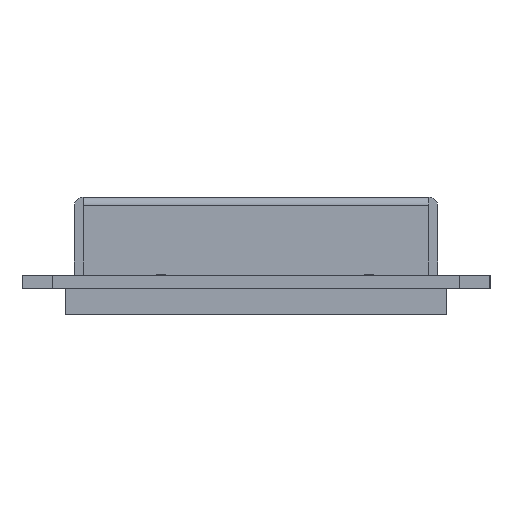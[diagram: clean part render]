
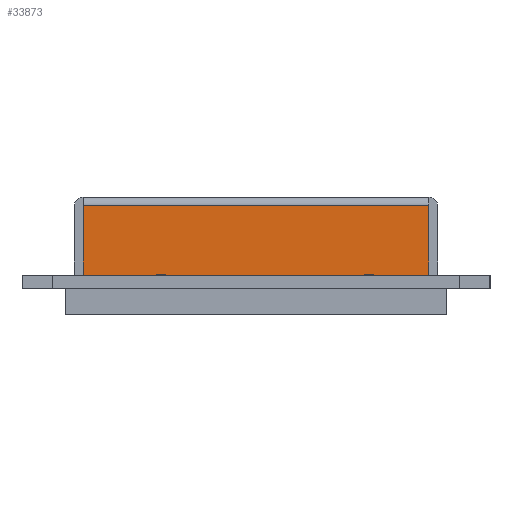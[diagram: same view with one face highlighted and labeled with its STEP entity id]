
A CAD part, left-side view. The second image highlights one B-rep face of the part: STEP entity #33873.
In plain terms, the highlighted planar face has unit normal (-1, 0, 0).
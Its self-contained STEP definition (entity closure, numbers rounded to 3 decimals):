
#1769 = EDGE_LOOP ( 'NONE', ( #32699, #21112, #14857, #35294 ) ) ;
#4087 = EDGE_CURVE ( 'NONE', #55263, #40249, #17164, .T. ) ;
#4167 = LINE ( 'NONE', #35511, #15097 ) ;
#5903 = EDGE_CURVE ( 'NONE', #40249, #44597, #4167, .T. ) ;
#7395 = PLANE ( 'NONE',  #45710 ) ;
#8033 = EDGE_CURVE ( 'NONE', #44597, #19245, #34786, .T. ) ;
#8549 = CARTESIAN_POINT ( 'NONE',  ( 11.85, -46.95, 9.6 ) ) ;
#8587 = DIRECTION ( 'NONE',  ( 0., 0., 1. ) ) ;
#9038 = VECTOR ( 'NONE', #38651, 1000. ) ;
#12665 = EDGE_CURVE ( 'NONE', #55263, #19245, #28182, .T. ) ;
#12729 = DIRECTION ( 'NONE',  ( 1., 0., 0. ) ) ;
#14857 = ORIENTED_EDGE ( 'NONE', *, *, #12665, .F. ) ;
#15097 = VECTOR ( 'NONE', #8587, 1000. ) ;
#17164 = LINE ( 'NONE', #36049, #31664 ) ;
#19245 = VERTEX_POINT ( 'NONE', #54883 ) ;
#20735 = DIRECTION ( 'NONE',  ( 0., 1., 0. ) ) ;
#21112 = ORIENTED_EDGE ( 'NONE', *, *, #8033, .T. ) ;
#23470 = DIRECTION ( 'NONE',  ( 0., 0., 1. ) ) ;
#28182 = LINE ( 'NONE', #33512, #47278 ) ;
#31664 = VECTOR ( 'NONE', #57931, 1000. ) ;
#32699 = ORIENTED_EDGE ( 'NONE', *, *, #5903, .T. ) ;
#33512 = CARTESIAN_POINT ( 'NONE',  ( 11.85, -7.05, 1.6 ) ) ;
#33873 = ADVANCED_FACE ( 'NONE', ( #48193 ), #7395, .F. ) ;
#34786 = LINE ( 'NONE', #57515, #9038 ) ;
#35157 = CARTESIAN_POINT ( 'NONE',  ( 11.85, -46.95, 1.6 ) ) ;
#35294 = ORIENTED_EDGE ( 'NONE', *, *, #4087, .T. ) ;
#35511 = CARTESIAN_POINT ( 'NONE',  ( 11.85, -46.95, 1.6 ) ) ;
#36049 = CARTESIAN_POINT ( 'NONE',  ( 11.85, -6.05, 1.6 ) ) ;
#38651 = DIRECTION ( 'NONE',  ( 0., 1., 0. ) ) ;
#40249 = VERTEX_POINT ( 'NONE', #35157 ) ;
#43772 = CARTESIAN_POINT ( 'NONE',  ( 11.85, -6.05, 10.6 ) ) ;
#44597 = VERTEX_POINT ( 'NONE', #8549 ) ;
#45710 = AXIS2_PLACEMENT_3D ( 'NONE', #43772, #12729, #20735 ) ;
#47278 = VECTOR ( 'NONE', #23470, 1000. ) ;
#48193 = FACE_OUTER_BOUND ( 'NONE', #1769, .T. ) ;
#54716 = CARTESIAN_POINT ( 'NONE',  ( 11.85, -7.05, 1.6 ) ) ;
#54883 = CARTESIAN_POINT ( 'NONE',  ( 11.85, -7.05, 9.6 ) ) ;
#55263 = VERTEX_POINT ( 'NONE', #54716 ) ;
#57515 = CARTESIAN_POINT ( 'NONE',  ( 11.85, -7.05, 9.6 ) ) ;
#57931 = DIRECTION ( 'NONE',  ( 0., -1., 0. ) ) ;
